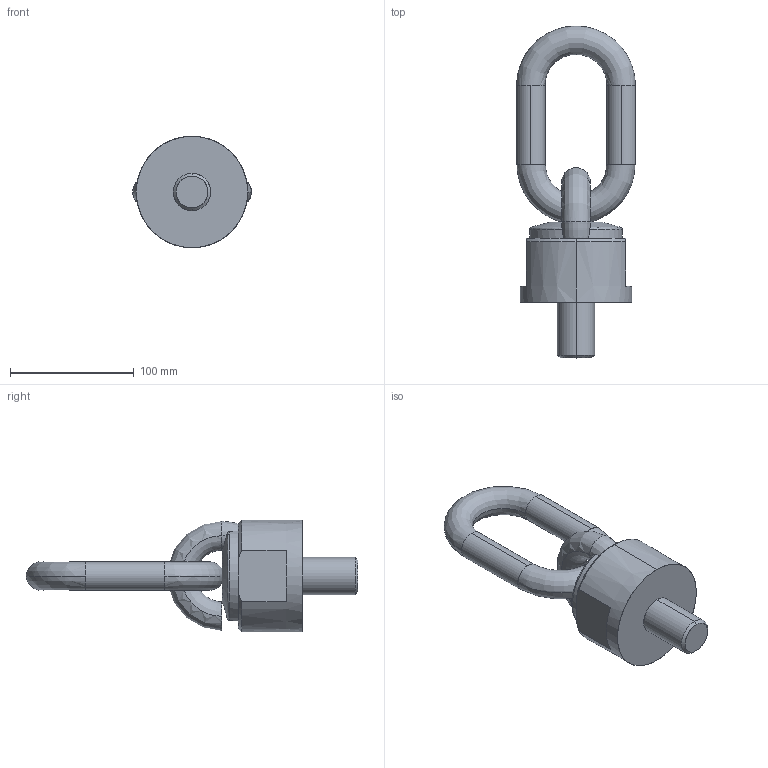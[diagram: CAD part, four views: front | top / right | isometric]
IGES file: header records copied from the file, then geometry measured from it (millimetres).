
Start section: START RECORD GO HERE.
Global section: file name: C800X0803045.igs; native system: DASSAULT SYSTEMES CATIA V5 R20 - www.3ds.com; preprocessor: CATIA Version 5 Release 20 ; author: Utente; organization: NB04-ASUS; date: 20200412.222153; units: millimetre
Bounding box: 96 x 268 x 90 mm (x, y, z)
Surface area: 65127.3 mm2 (no closed solid volume)
Topology: 0 solids, 0 shells, 42 faces, 232 edges, 232 vertices
Faces by surface type: revolution 30, extrusion 12
